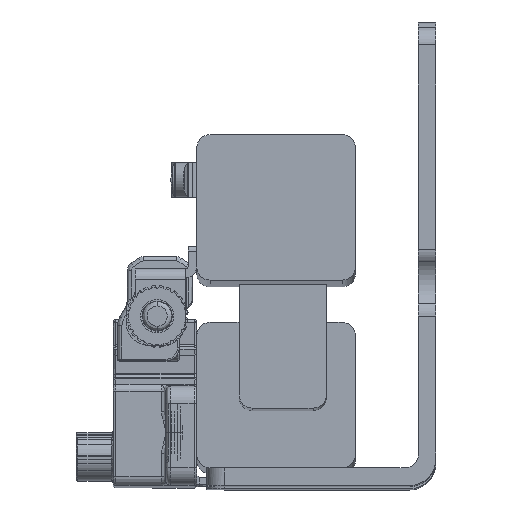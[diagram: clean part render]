
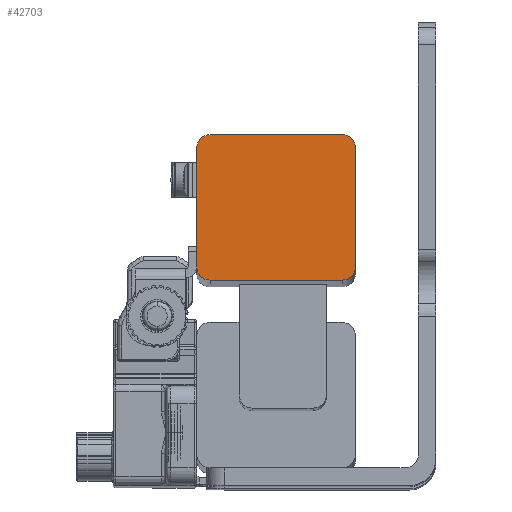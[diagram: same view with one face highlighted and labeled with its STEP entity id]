
A CAD part, top view. The second image highlights one B-rep face of the part: STEP entity #42703.
In plain terms, the highlighted planar face has unit normal (0, 0, 1).
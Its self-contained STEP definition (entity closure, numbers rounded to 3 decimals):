
#2596 = DIRECTION ( 'NONE',  ( -1., 0., 0. ) ) ;
#4149 = DIRECTION ( 'NONE',  ( 1., 0., 0. ) ) ;
#4885 = EDGE_LOOP ( 'NONE', ( #29324, #7982, #5303, #51455, #33844, #26281, #20080, #71619 ) ) ;
#5181 = CARTESIAN_POINT ( 'NONE',  ( -7.5, 6.75, 443.1 ) ) ;
#5303 = ORIENTED_EDGE ( 'NONE', *, *, #53474, .T. ) ;
#6443 = DIRECTION ( 'NONE',  ( 0., 0., 1. ) ) ;
#6586 = CIRCLE ( 'NONE', #17305, 1.5 ) ;
#7933 = EDGE_CURVE ( 'NONE', #62161, #44112, #6586, .T. ) ;
#7982 = ORIENTED_EDGE ( 'NONE', *, *, #7933, .T. ) ;
#8198 = AXIS2_PLACEMENT_3D ( 'NONE', #69905, #31277, #82473 ) ;
#9932 = EDGE_CURVE ( 'NONE', #41104, #62161, #16331, .T. ) ;
#10485 = DIRECTION ( 'NONE',  ( 1., 0., 0. ) ) ;
#10786 = CIRCLE ( 'NONE', #76489, 1.5 ) ;
#16331 = LINE ( 'NONE', #72970, #41167 ) ;
#16344 = CARTESIAN_POINT ( 'NONE',  ( 7.5, -6.75, 443.1 ) ) ;
#17305 = AXIS2_PLACEMENT_3D ( 'NONE', #37636, #81696, #63219 ) ;
#17364 = CARTESIAN_POINT ( 'NONE',  ( -7.5, -8.25, 443.1 ) ) ;
#20080 = ORIENTED_EDGE ( 'NONE', *, *, #52893, .T. ) ;
#23407 = CARTESIAN_POINT ( 'NONE',  ( -7.5, -8.25, 443.1 ) ) ;
#23462 = AXIS2_PLACEMENT_3D ( 'NONE', #5181, #6443, #30783 ) ;
#26281 = ORIENTED_EDGE ( 'NONE', *, *, #34681, .T. ) ;
#26777 = CARTESIAN_POINT ( 'NONE',  ( -9., -6.75, 443.1 ) ) ;
#29324 = ORIENTED_EDGE ( 'NONE', *, *, #9932, .T. ) ;
#30112 = VERTEX_POINT ( 'NONE', #38242 ) ;
#30166 = DIRECTION ( 'NONE',  ( 0., 0., 1. ) ) ;
#30783 = DIRECTION ( 'NONE',  ( 1., 0., 0. ) ) ;
#31277 = DIRECTION ( 'NONE',  ( 0., 0., 1. ) ) ;
#31775 = CARTESIAN_POINT ( 'NONE',  ( -7.5, 8.25, 443.1 ) ) ;
#33844 = ORIENTED_EDGE ( 'NONE', *, *, #40126, .T. ) ;
#34021 = EDGE_CURVE ( 'NONE', #45166, #78735, #10786, .T. ) ;
#34681 = EDGE_CURVE ( 'NONE', #30112, #35915, #39007, .T. ) ;
#35915 = VERTEX_POINT ( 'NONE', #80701 ) ;
#36878 = PLANE ( 'NONE',  #68647 ) ;
#37636 = CARTESIAN_POINT ( 'NONE',  ( -7.5, -6.75, 443.1 ) ) ;
#38242 = CARTESIAN_POINT ( 'NONE',  ( 9., 6.75, 443.1 ) ) ;
#39007 = CIRCLE ( 'NONE', #8198, 1.5 ) ;
#40126 = EDGE_CURVE ( 'NONE', #78735, #30112, #53538, .T. ) ;
#41104 = VERTEX_POINT ( 'NONE', #46443 ) ;
#41167 = VECTOR ( 'NONE', #65861, 1000. ) ;
#42703 = ADVANCED_FACE ( 'NONE', ( #61248 ), #36878, .T. ) ;
#44112 = VERTEX_POINT ( 'NONE', #17364 ) ;
#45166 = VERTEX_POINT ( 'NONE', #74664 ) ;
#45880 = LINE ( 'NONE', #71460, #73132 ) ;
#46443 = CARTESIAN_POINT ( 'NONE',  ( -9., 6.75, 443.1 ) ) ;
#48211 = DIRECTION ( 'NONE',  ( 0., 0., 1. ) ) ;
#48930 = CIRCLE ( 'NONE', #23462, 1.5 ) ;
#51174 = DIRECTION ( 'NONE',  ( 0., 1., 0. ) ) ;
#51455 = ORIENTED_EDGE ( 'NONE', *, *, #34021, .T. ) ;
#52576 = EDGE_CURVE ( 'NONE', #64028, #41104, #48930, .T. ) ;
#52893 = EDGE_CURVE ( 'NONE', #35915, #64028, #45880, .T. ) ;
#53474 = EDGE_CURVE ( 'NONE', #44112, #45166, #62011, .T. ) ;
#53538 = LINE ( 'NONE', #83057, #82046 ) ;
#56135 = DIRECTION ( 'NONE',  ( 1., 0., 0. ) ) ;
#61248 = FACE_OUTER_BOUND ( 'NONE', #4885, .T. ) ;
#62011 = LINE ( 'NONE', #23407, #79824 ) ;
#62161 = VERTEX_POINT ( 'NONE', #26777 ) ;
#63219 = DIRECTION ( 'NONE',  ( 1., 0., 0. ) ) ;
#64028 = VERTEX_POINT ( 'NONE', #31775 ) ;
#65861 = DIRECTION ( 'NONE',  ( 0., -1., 0. ) ) ;
#67447 = CARTESIAN_POINT ( 'NONE',  ( 9., -6.75, 443.1 ) ) ;
#67957 = CARTESIAN_POINT ( 'NONE',  ( -7.51, 6.76, 443.1 ) ) ;
#68647 = AXIS2_PLACEMENT_3D ( 'NONE', #67957, #30166, #10485 ) ;
#69905 = CARTESIAN_POINT ( 'NONE',  ( 7.5, 6.75, 443.1 ) ) ;
#71460 = CARTESIAN_POINT ( 'NONE',  ( -9., 8.25, 443.1 ) ) ;
#71619 = ORIENTED_EDGE ( 'NONE', *, *, #52576, .T. ) ;
#72970 = CARTESIAN_POINT ( 'NONE',  ( -9., 8.25, 443.1 ) ) ;
#73132 = VECTOR ( 'NONE', #2596, 1000. ) ;
#74664 = CARTESIAN_POINT ( 'NONE',  ( 7.5, -8.25, 443.1 ) ) ;
#76489 = AXIS2_PLACEMENT_3D ( 'NONE', #16344, #48211, #4149 ) ;
#78735 = VERTEX_POINT ( 'NONE', #67447 ) ;
#79824 = VECTOR ( 'NONE', #56135, 1000. ) ;
#80701 = CARTESIAN_POINT ( 'NONE',  ( 7.5, 8.25, 443.1 ) ) ;
#81696 = DIRECTION ( 'NONE',  ( 0., 0., 1. ) ) ;
#82046 = VECTOR ( 'NONE', #51174, 1000. ) ;
#82473 = DIRECTION ( 'NONE',  ( -1., 0., 0. ) ) ;
#83057 = CARTESIAN_POINT ( 'NONE',  ( 9., 6.75, 443.1 ) ) ;
